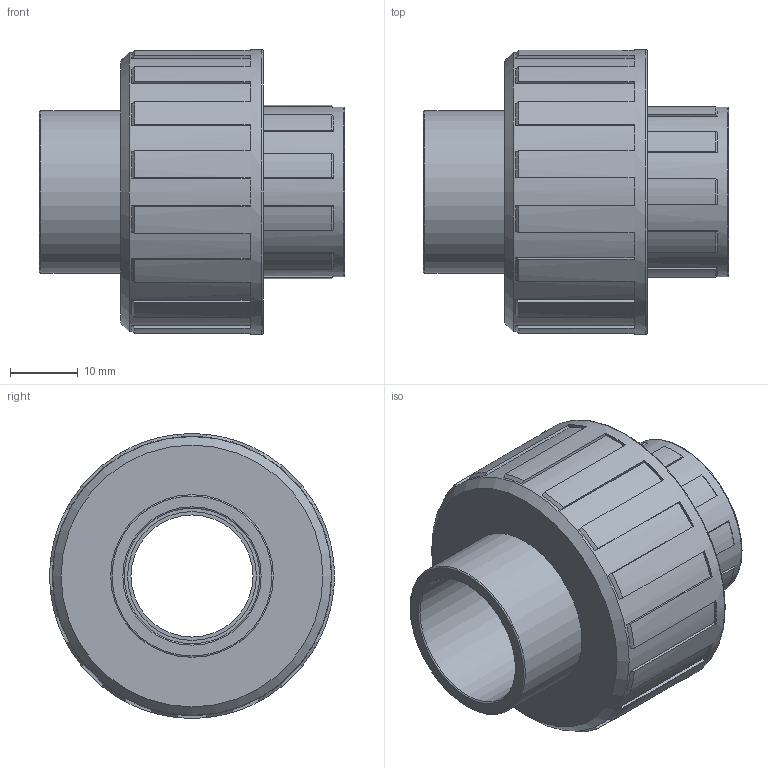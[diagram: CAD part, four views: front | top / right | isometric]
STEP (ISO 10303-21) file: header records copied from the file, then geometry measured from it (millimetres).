
FILE_DESCRIPTION(/* description */ ('PLASSON UNION+O RING-CEM PVC 20'),/* implementation_level */ '2;1');
FILE_NAME(/* name */ 'C:\Dropbox\KIMPROJECTS-Inventor\99-16-3568-Processing\PVC Catalog 2017\050800\050800020.ipt.stp',/* time_stamp */ '2017-12-07T15:57:42+02:00',/* author */ ('Кирилл'),/* organization */ (''),/* preprocessor_version */ 'ST-DEVELOPER v15.6',/* originating_system */ 'Autodesk Inventor 2015',/* authorisation */ '');
FILE_SCHEMA (('AUTOMOTIVE_DESIGN { 1 0 10303 214 3 1 1 }'));
Length unit declared in the file: millimetre
Products named in the file (1): 050800020
Bounding box: 45 x 42 x 42 mm (x, y, z)
Volume: 26444.5 mm3; surface area: 9749.2 mm2
Topology: 1 solids, 1 shells, 125 faces, 348 edges, 230 vertices
Faces by surface type: plane 75, cone 27, cylinder 18, torus 5
Full cylindrical faces by diameter (mm): 18 x1, 19 x1, 20 x2, 24 x1, 25 x1, 41.16 x1, 42 x1
Entity records: 3968 total; most frequent: DIRECTION 706, CARTESIAN_POINT 684, ORIENTED_EDGE 662, EDGE_CURVE 331, AXIS2_PLACEMENT_3D 249, VERTEX_POINT 227, LINE 208, VECTOR 208
